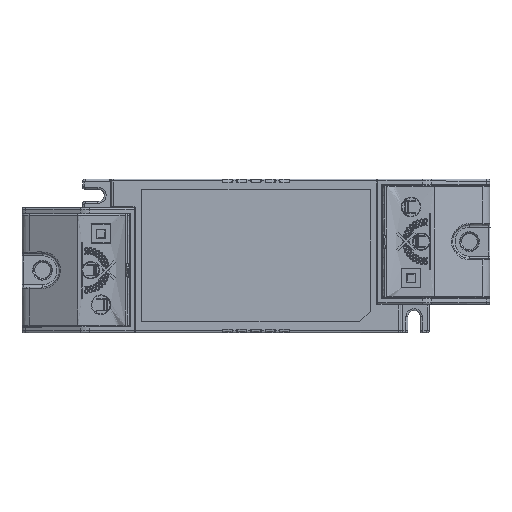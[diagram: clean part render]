
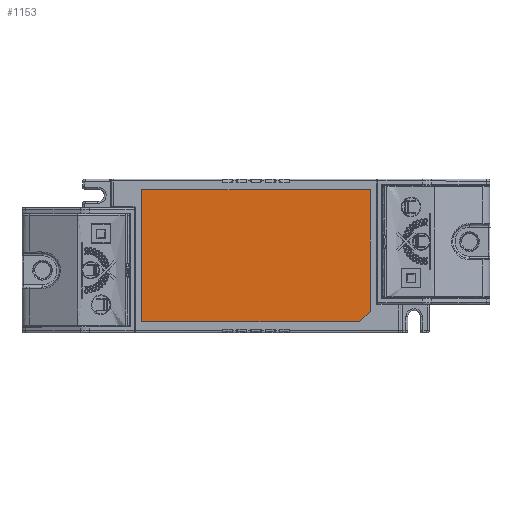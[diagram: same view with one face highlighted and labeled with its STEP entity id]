
A CAD part, top view. The second image highlights one B-rep face of the part: STEP entity #1153.
In plain terms, the highlighted planar face has unit normal (0, 0, 1).
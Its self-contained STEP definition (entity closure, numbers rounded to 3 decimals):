
#1153=ADVANCED_FACE('',(#2793),#25651,.T.);
#2793=FACE_OUTER_BOUND('',#4480,.T.);
#4480=EDGE_LOOP('',(#10824,#10825,#10826,#10827,#10828,#10829,#10830));
#10824=ORIENTED_EDGE('',*,*,#16226,.F.);
#10825=ORIENTED_EDGE('',*,*,#16224,.F.);
#10826=ORIENTED_EDGE('',*,*,#16229,.T.);
#10827=ORIENTED_EDGE('',*,*,#16230,.T.);
#10828=ORIENTED_EDGE('',*,*,#16231,.T.);
#10829=ORIENTED_EDGE('',*,*,#16232,.T.);
#10830=ORIENTED_EDGE('',*,*,#16233,.T.);
#16224=EDGE_CURVE('',#23600,#23601,#20405,.T.);
#16226=EDGE_CURVE('',#23601,#23602,#20407,.T.);
#16229=EDGE_CURVE('',#23600,#23603,#20410,.T.);
#16230=EDGE_CURVE('',#23603,#23604,#20411,.T.);
#16231=EDGE_CURVE('',#23604,#23605,#20412,.T.);
#16232=EDGE_CURVE('',#23605,#23606,#20413,.T.);
#16233=EDGE_CURVE('',#23606,#23602,#20414,.T.);
#20405=B_SPLINE_CURVE_WITH_KNOTS('',1,(#90615,#90616),.UNSPECIFIED.,.F.,
 .F.,(2,2),(0.,34.),.UNSPECIFIED.);
#20407=B_SPLINE_CURVE_WITH_KNOTS('',1,(#90619,#90620),.UNSPECIFIED.,.F.,
 .F.,(2,2),(0.,4.243),.UNSPECIFIED.);
#20410=B_SPLINE_CURVE_WITH_KNOTS('',1,(#90625,#90626),.UNSPECIFIED.,.F.,
 .F.,(2,2),(0.,22.7),.UNSPECIFIED.);
#20411=B_SPLINE_CURVE_WITH_KNOTS('',1,(#90627,#90628),.UNSPECIFIED.,.F.,
 .F.,(2,2),(0.,41.3),.UNSPECIFIED.);
#20412=B_SPLINE_CURVE_WITH_KNOTS('',1,(#90629,#90630),.UNSPECIFIED.,.F.,
 .F.,(2,2),(0.,37.),.UNSPECIFIED.);
#20413=B_SPLINE_CURVE_WITH_KNOTS('',1,(#90631,#90632),.UNSPECIFIED.,.F.,
 .F.,(2,2),(0.,22.7),.UNSPECIFIED.);
#20414=B_SPLINE_CURVE_WITH_KNOTS('',1,(#90633,#90634),.UNSPECIFIED.,.F.,
 .F.,(2,2),(0.,38.3),.UNSPECIFIED.);
#23600=VERTEX_POINT('',#88322);
#23601=VERTEX_POINT('',#88323);
#23602=VERTEX_POINT('',#88324);
#23603=VERTEX_POINT('',#88325);
#23604=VERTEX_POINT('',#88326);
#23605=VERTEX_POINT('',#88327);
#23606=VERTEX_POINT('',#88328);
#25651=PLANE('',#26118);
#26118=AXIS2_PLACEMENT_3D('',#71085,#26568,$);
#26568=DIRECTION('',(0.,0.,1.));
#71085=CARTESIAN_POINT('',(524.593,-214.959,-35.15));
#88322=CARTESIAN_POINT('',(595.25,-174.002,-35.15));
#88323=CARTESIAN_POINT('',(595.25,-208.002,-35.15));
#88324=CARTESIAN_POINT('',(592.25,-211.002,-35.15));
#88325=CARTESIAN_POINT('',(572.55,-174.002,-35.15));
#88326=CARTESIAN_POINT('',(531.25,-174.002,-35.15));
#88327=CARTESIAN_POINT('',(531.25,-211.002,-35.15));
#88328=CARTESIAN_POINT('',(553.95,-211.002,-35.15));
#90615=CARTESIAN_POINT('',(595.25,-174.002,-35.15));
#90616=CARTESIAN_POINT('',(595.25,-208.002,-35.15));
#90619=CARTESIAN_POINT('',(595.25,-208.002,-35.15));
#90620=CARTESIAN_POINT('',(592.25,-211.002,-35.15));
#90625=CARTESIAN_POINT('',(595.25,-174.002,-35.15));
#90626=CARTESIAN_POINT('',(572.55,-174.002,-35.15));
#90627=CARTESIAN_POINT('',(572.55,-174.002,-35.15));
#90628=CARTESIAN_POINT('',(531.25,-174.002,-35.15));
#90629=CARTESIAN_POINT('',(531.25,-174.002,-35.15));
#90630=CARTESIAN_POINT('',(531.25,-211.002,-35.15));
#90631=CARTESIAN_POINT('',(531.25,-211.002,-35.15));
#90632=CARTESIAN_POINT('',(553.95,-211.002,-35.15));
#90633=CARTESIAN_POINT('',(553.95,-211.002,-35.15));
#90634=CARTESIAN_POINT('',(592.25,-211.002,-35.15));
